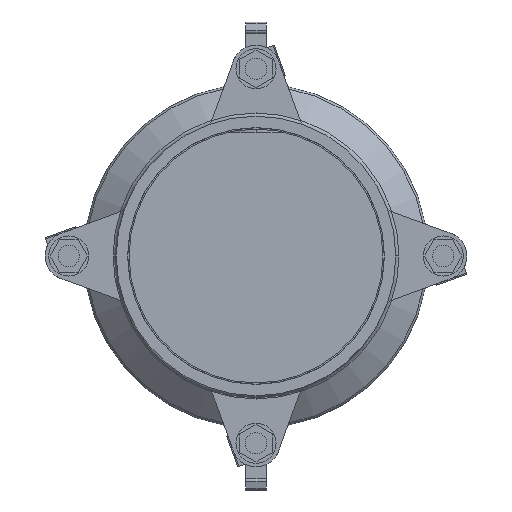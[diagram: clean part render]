
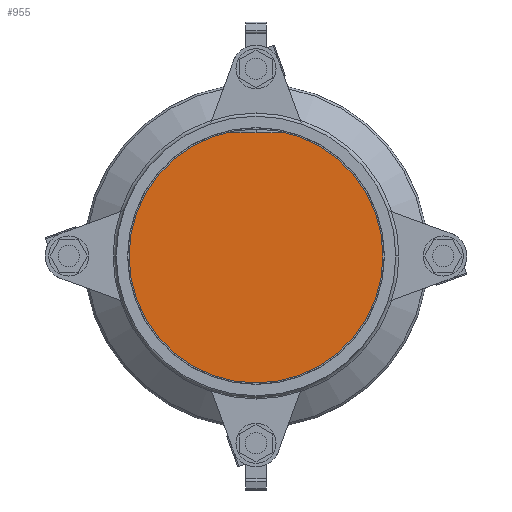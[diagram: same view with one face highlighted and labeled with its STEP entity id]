
A CAD part, left-side view. The second image highlights one B-rep face of the part: STEP entity #955.
In plain terms, the highlighted planar face has unit normal (-1, 0, 0).
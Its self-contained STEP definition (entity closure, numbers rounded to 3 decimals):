
#955=ADVANCED_FACE('',(#1941),#1942,.T.);
#1941=FACE_OUTER_BOUND('',#3277,.T.);
#1942=PLANE('',#3278);
#3277=EDGE_LOOP('',(#4751,#4752));
#3278=AXIS2_PLACEMENT_3D('',#4753,#4754,#4755);
#4751=ORIENTED_EDGE('',*,*,#7083,.T.);
#4752=ORIENTED_EDGE('',*,*,#7398,.T.);
#4753=CARTESIAN_POINT('',(102.0,0.0,0.));
#4754=DIRECTION('',(-1.0,0.0,0.));
#4755=DIRECTION('',(0.,0.0,-1.0));
#7083=EDGE_CURVE('',#8253,#8257,#8259,.T.);
#7398=EDGE_CURVE('',#8257,#8253,#8788,.T.);
#8253=VERTEX_POINT('',#9980);
#8257=VERTEX_POINT('',#9985);
#8259=CIRCLE('',#9988,107.0);
#8788=CIRCLE('',#10694,107.0);
#9980=CARTESIAN_POINT('',(102.0,0.0,-107.0));
#9985=CARTESIAN_POINT('',(102.0,0.,107.0));
#9988=AXIS2_PLACEMENT_3D('',#12261,#12262,#12263);
#10694=AXIS2_PLACEMENT_3D('',#12639,#12640,#12641);
#12261=CARTESIAN_POINT('',(102.0,0.0,0.));
#12262=DIRECTION('',(-1.0,0.0,0.));
#12263=DIRECTION('',(0.,0.0,-1.0));
#12639=CARTESIAN_POINT('',(102.0,0.0,0.));
#12640=DIRECTION('',(-1.0,0.0,0.));
#12641=DIRECTION('',(0.,0.0,-1.0));
